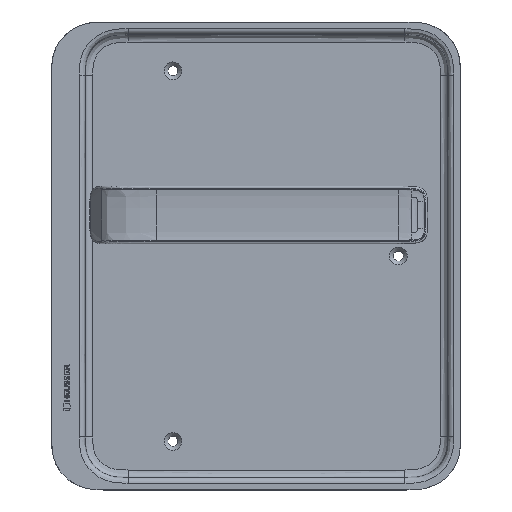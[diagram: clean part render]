
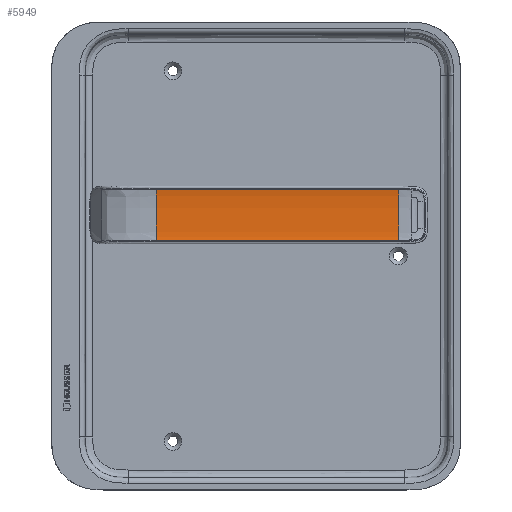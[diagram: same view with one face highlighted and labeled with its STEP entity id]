
A CAD part, top view. The second image highlights one B-rep face of the part: STEP entity #5949.
In plain terms, the highlighted free-form (B-spline) face has degree [1, 5] with [2, 6] control points.
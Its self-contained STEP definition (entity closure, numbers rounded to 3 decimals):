
#149=B_SPLINE_SURFACE_WITH_KNOTS('',1,5,((#17912,#17913,#17914,#17915,#17916,
#17917),(#17918,#17919,#17920,#17921,#17922,#17923)),.UNSPECIFIED.,.F.,
 .F.,.F.,(2,2),(6,6),(0.,1.),(0.,1.),.UNSPECIFIED.);
#1238=B_SPLINE_CURVE_WITH_KNOTS('',3,(#14501,#14502,#14503,#14504,#14505,
#14506,#14507,#14508,#14509,#14510,#14511,#14512,#14513,#14514,#14515,#14516,
#14517,#14518,#14519,#14520,#14521,#14522,#14523,#14524,#14525,#14526,#14527,
#14528),.UNSPECIFIED.,.F.,.F.,(4,3,3,3,3,3,3,3,3,4),(3.015,3.808,
4.601,6.186,7.772,9.358,10.943,
12.529,14.115,15.703),.UNSPECIFIED.);
#1244=B_SPLINE_CURVE_WITH_KNOTS('',5,(#14603,#14604,#14605,#14606,#14607,
#14608,#14609,#14610,#14611,#14612,#14613,#14614,#14615,#14616,#14617),
 .UNSPECIFIED.,.F.,.F.,(6,1,1,1,1,1,1,1,1,1,6),(20.644,20.647,
22.233,23.819,25.404,26.99,28.576,
30.161,31.747,32.54,33.333),
 .UNSPECIFIED.);
#1299=B_SPLINE_CURVE_WITH_KNOTS('',5,(#17268,#17269,#17270,#17271,#17272,
#17273),.UNSPECIFIED.,.F.,.F.,(6,6),(0.014,0.986),
 .UNSPECIFIED.);
#1316=B_SPLINE_CURVE_WITH_KNOTS('',5,(#17924,#17925,#17926,#17927,#17928,
#17929),.UNSPECIFIED.,.F.,.F.,(6,6),(0.014,0.986),
 .UNSPECIFIED.);
#1843=FACE_OUTER_BOUND('',#2230,.T.);
#2230=EDGE_LOOP('',(#5209,#5210,#5211,#5212));
#2801=VERTEX_POINT('',#14453);
#2802=VERTEX_POINT('',#14500);
#2807=VERTEX_POINT('',#14587);
#2808=VERTEX_POINT('',#14602);
#3558=EDGE_CURVE('',#2801,#2802,#1238,.T.);
#3564=EDGE_CURVE('',#2807,#2808,#1244,.T.);
#3634=EDGE_CURVE('',#2808,#2801,#1299,.T.);
#3670=EDGE_CURVE('',#2807,#2802,#1316,.T.);
#5209=ORIENTED_EDGE('',*,*,#3634,.F.);
#5210=ORIENTED_EDGE('',*,*,#3564,.F.);
#5211=ORIENTED_EDGE('',*,*,#3670,.T.);
#5212=ORIENTED_EDGE('',*,*,#3558,.F.);
#5949=ADVANCED_FACE('',(#1843),#149,.T.);
#14453=CARTESIAN_POINT('',(194.136,25.017,10.442));
#14500=CARTESIAN_POINT('',(320.987,25.017,10.442));
#14501=CARTESIAN_POINT('Ctrl Pts',(194.136,25.017,10.442));
#14502=CARTESIAN_POINT('Ctrl Pts',(196.779,25.018,10.442));
#14503=CARTESIAN_POINT('Ctrl Pts',(199.421,25.017,10.442));
#14504=CARTESIAN_POINT('Ctrl Pts',(202.064,25.017,10.442));
#14505=CARTESIAN_POINT('Ctrl Pts',(204.706,25.017,10.442));
#14506=CARTESIAN_POINT('Ctrl Pts',(207.348,25.017,10.442));
#14507=CARTESIAN_POINT('Ctrl Pts',(209.991,25.017,10.442));
#14508=CARTESIAN_POINT('Ctrl Pts',(215.277,25.017,10.442));
#14509=CARTESIAN_POINT('Ctrl Pts',(220.563,25.017,10.442));
#14510=CARTESIAN_POINT('Ctrl Pts',(225.849,25.017,10.442));
#14511=CARTESIAN_POINT('Ctrl Pts',(231.135,25.017,10.442));
#14512=CARTESIAN_POINT('Ctrl Pts',(236.42,25.017,10.442));
#14513=CARTESIAN_POINT('Ctrl Pts',(241.704,25.017,10.442));
#14514=CARTESIAN_POINT('Ctrl Pts',(246.989,25.017,10.442));
#14515=CARTESIAN_POINT('Ctrl Pts',(252.274,25.017,10.442));
#14516=CARTESIAN_POINT('Ctrl Pts',(257.56,25.017,10.442));
#14517=CARTESIAN_POINT('Ctrl Pts',(262.846,25.017,10.442));
#14518=CARTESIAN_POINT('Ctrl Pts',(268.134,25.017,10.442));
#14519=CARTESIAN_POINT('Ctrl Pts',(273.42,25.017,10.442));
#14520=CARTESIAN_POINT('Ctrl Pts',(278.706,25.017,10.442));
#14521=CARTESIAN_POINT('Ctrl Pts',(283.989,25.017,10.442));
#14522=CARTESIAN_POINT('Ctrl Pts',(289.272,25.017,10.442));
#14523=CARTESIAN_POINT('Ctrl Pts',(294.555,25.017,10.442));
#14524=CARTESIAN_POINT('Ctrl Pts',(299.841,25.017,10.442));
#14525=CARTESIAN_POINT('Ctrl Pts',(305.132,25.017,10.442));
#14526=CARTESIAN_POINT('Ctrl Pts',(310.433,25.017,10.442));
#14527=CARTESIAN_POINT('Ctrl Pts',(315.748,25.018,10.442));
#14528=CARTESIAN_POINT('Ctrl Pts',(320.987,25.017,10.442));
#14587=CARTESIAN_POINT('',(320.995,-1.494,10.442));
#14602=CARTESIAN_POINT('',(194.135,-1.495,10.442));
#14603=CARTESIAN_POINT('Ctrl Pts',(320.995,-1.494,10.442));
#14604=CARTESIAN_POINT('Ctrl Pts',(320.988,-1.494,10.442));
#14605=CARTESIAN_POINT('Ctrl Pts',(317.843,-1.495,10.442));
#14606=CARTESIAN_POINT('Ctrl Pts',(311.507,-1.494,10.442));
#14607=CARTESIAN_POINT('Ctrl Pts',(301.952,-1.495,10.442));
#14608=CARTESIAN_POINT('Ctrl Pts',(289.274,-1.495,10.442));
#14609=CARTESIAN_POINT('Ctrl Pts',(273.424,-1.495,10.442));
#14610=CARTESIAN_POINT('Ctrl Pts',(257.557,-1.495,10.442));
#14611=CARTESIAN_POINT('Ctrl Pts',(241.704,-1.495,10.442));
#14612=CARTESIAN_POINT('Ctrl Pts',(227.437,-1.495,10.442));
#14613=CARTESIAN_POINT('Ctrl Pts',(214.747,-1.495,10.441));
#14614=CARTESIAN_POINT('Ctrl Pts',(205.233,-1.495,10.442));
#14615=CARTESIAN_POINT('Ctrl Pts',(198.893,-1.495,10.441));
#14616=CARTESIAN_POINT('Ctrl Pts',(195.721,-1.495,10.442));
#14617=CARTESIAN_POINT('Ctrl Pts',(194.135,-1.495,10.442));
#17268=CARTESIAN_POINT('Ctrl Pts',(194.135,-1.495,10.442));
#17269=CARTESIAN_POINT('Ctrl Pts',(194.135,0.653,9.825));
#17270=CARTESIAN_POINT('Ctrl Pts',(194.135,7.533,9.517));
#17271=CARTESIAN_POINT('Ctrl Pts',(194.135,15.989,9.517));
#17272=CARTESIAN_POINT('Ctrl Pts',(194.135,22.869,9.825));
#17273=CARTESIAN_POINT('Ctrl Pts',(194.135,25.017,10.442));
#17912=CARTESIAN_POINT('Ctrl Pts',(194.135,-1.639,10.486));
#17913=CARTESIAN_POINT('Ctrl Pts',(194.135,0.288,9.834));
#17914=CARTESIAN_POINT('Ctrl Pts',(194.135,7.364,9.508));
#17915=CARTESIAN_POINT('Ctrl Pts',(194.135,16.158,9.508));
#17916=CARTESIAN_POINT('Ctrl Pts',(194.135,23.234,9.834));
#17917=CARTESIAN_POINT('Ctrl Pts',(194.135,25.161,10.486));
#17918=CARTESIAN_POINT('Ctrl Pts',(321.003,-1.639,10.487));
#17919=CARTESIAN_POINT('Ctrl Pts',(321.005,0.288,9.835));
#17920=CARTESIAN_POINT('Ctrl Pts',(321.006,7.364,9.509));
#17921=CARTESIAN_POINT('Ctrl Pts',(321.006,16.158,9.509));
#17922=CARTESIAN_POINT('Ctrl Pts',(321.005,23.234,9.835));
#17923=CARTESIAN_POINT('Ctrl Pts',(321.003,25.161,10.487));
#17924=CARTESIAN_POINT('Ctrl Pts',(320.987,-1.494,10.442));
#17925=CARTESIAN_POINT('Ctrl Pts',(320.989,0.654,9.826));
#17926=CARTESIAN_POINT('Ctrl Pts',(320.99,7.533,9.518));
#17927=CARTESIAN_POINT('Ctrl Pts',(320.99,15.989,9.518));
#17928=CARTESIAN_POINT('Ctrl Pts',(320.989,22.868,9.826));
#17929=CARTESIAN_POINT('Ctrl Pts',(320.987,25.017,10.442));
